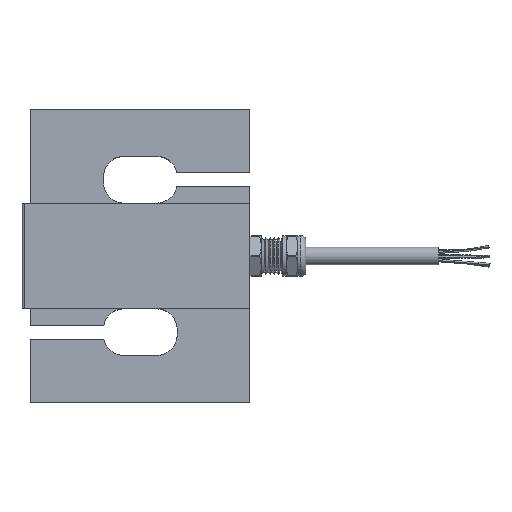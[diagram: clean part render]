
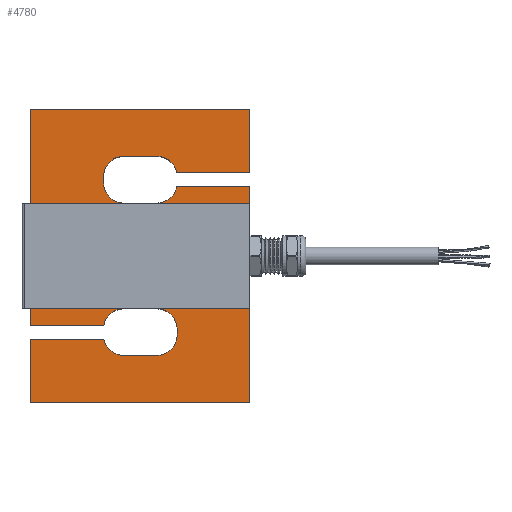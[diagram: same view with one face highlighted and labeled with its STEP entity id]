
A CAD part, top view. The second image highlights one B-rep face of the part: STEP entity #4780.
In plain terms, the highlighted planar face has unit normal (0, 0, 1).
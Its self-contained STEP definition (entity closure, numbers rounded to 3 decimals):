
#472=PLANE('',#5364);
#739=FACE_OUTER_BOUND('',#1150,.T.);
#1150=EDGE_LOOP('',(#4106,#4107,#4108,#4109,#4110,#4111,#4112,#4113,#4114,
#4115,#4116,#4117,#4118,#4119,#4120,#4121,#4122,#4123,#4124,#4125,#4126,
#4127,#4128,#4129));
#1427=LINE('',#8050,#1642);
#1430=LINE('',#8060,#1645);
#1480=LINE('',#9698,#1695);
#1481=LINE('',#9702,#1696);
#1482=LINE('',#9706,#1697);
#1483=LINE('',#9710,#1698);
#1484=LINE('',#9714,#1699);
#1485=LINE('',#9716,#1700);
#1486=LINE('',#9717,#1701);
#1487=LINE('',#9719,#1702);
#1488=LINE('',#9723,#1703);
#1489=LINE('',#9727,#1704);
#1490=LINE('',#9731,#1705);
#1491=LINE('',#9735,#1706);
#1492=LINE('',#9737,#1707);
#1493=LINE('',#9738,#1708);
#1642=VECTOR('',#6210,1000.);
#1645=VECTOR('',#6219,1000.);
#1695=VECTOR('',#6471,1000.);
#1696=VECTOR('',#6474,1000.);
#1697=VECTOR('',#6477,1000.);
#1698=VECTOR('',#6480,1000.);
#1699=VECTOR('',#6483,1000.);
#1700=VECTOR('',#6484,1000.);
#1701=VECTOR('',#6485,1000.);
#1702=VECTOR('',#6486,1000.);
#1703=VECTOR('',#6489,1000.);
#1704=VECTOR('',#6492,1000.);
#1705=VECTOR('',#6495,1000.);
#1706=VECTOR('',#6498,1000.);
#1707=VECTOR('',#6499,1000.);
#1708=VECTOR('',#6500,1000.);
#2006=CIRCLE('',#5365,7.);
#2007=CIRCLE('',#5366,7.);
#2008=CIRCLE('',#5367,7.);
#2009=CIRCLE('',#5368,7.);
#2010=CIRCLE('',#5369,7.);
#2011=CIRCLE('',#5370,7.);
#2012=CIRCLE('',#5371,7.);
#2013=CIRCLE('',#5372,7.);
#2234=VERTEX_POINT('',#8047);
#2235=VERTEX_POINT('',#8049);
#2238=VERTEX_POINT('',#8057);
#2239=VERTEX_POINT('',#8059);
#2484=VERTEX_POINT('',#9697);
#2485=VERTEX_POINT('',#9699);
#2486=VERTEX_POINT('',#9701);
#2487=VERTEX_POINT('',#9703);
#2488=VERTEX_POINT('',#9705);
#2489=VERTEX_POINT('',#9707);
#2490=VERTEX_POINT('',#9709);
#2491=VERTEX_POINT('',#9711);
#2492=VERTEX_POINT('',#9713);
#2493=VERTEX_POINT('',#9715);
#2494=VERTEX_POINT('',#9718);
#2495=VERTEX_POINT('',#9720);
#2496=VERTEX_POINT('',#9722);
#2497=VERTEX_POINT('',#9724);
#2498=VERTEX_POINT('',#9726);
#2499=VERTEX_POINT('',#9728);
#2500=VERTEX_POINT('',#9730);
#2501=VERTEX_POINT('',#9732);
#2502=VERTEX_POINT('',#9734);
#2503=VERTEX_POINT('',#9736);
#2883=EDGE_CURVE('',#2235,#2234,#1427,.T.);
#2888=EDGE_CURVE('',#2238,#2239,#1430,.T.);
#3134=EDGE_CURVE('',#2238,#2484,#1480,.T.);
#3135=EDGE_CURVE('',#2484,#2485,#2006,.T.);
#3136=EDGE_CURVE('',#2485,#2486,#1481,.T.);
#3137=EDGE_CURVE('',#2486,#2487,#2007,.T.);
#3138=EDGE_CURVE('',#2487,#2488,#1482,.T.);
#3139=EDGE_CURVE('',#2488,#2489,#2008,.T.);
#3140=EDGE_CURVE('',#2489,#2490,#1483,.T.);
#3141=EDGE_CURVE('',#2490,#2491,#2009,.T.);
#3142=EDGE_CURVE('',#2491,#2492,#1484,.T.);
#3143=EDGE_CURVE('',#2493,#2492,#1485,.T.);
#3144=EDGE_CURVE('',#2235,#2493,#1486,.T.);
#3145=EDGE_CURVE('',#2234,#2494,#1487,.T.);
#3146=EDGE_CURVE('',#2494,#2495,#2010,.T.);
#3147=EDGE_CURVE('',#2495,#2496,#1488,.T.);
#3148=EDGE_CURVE('',#2496,#2497,#2011,.T.);
#3149=EDGE_CURVE('',#2497,#2498,#1489,.T.);
#3150=EDGE_CURVE('',#2498,#2499,#2012,.T.);
#3151=EDGE_CURVE('',#2499,#2500,#1490,.T.);
#3152=EDGE_CURVE('',#2500,#2501,#2013,.T.);
#3153=EDGE_CURVE('',#2501,#2502,#1491,.T.);
#3154=EDGE_CURVE('',#2502,#2503,#1492,.T.);
#3155=EDGE_CURVE('',#2503,#2239,#1493,.T.);
#4106=ORIENTED_EDGE('',*,*,#2888,.F.);
#4107=ORIENTED_EDGE('',*,*,#3134,.T.);
#4108=ORIENTED_EDGE('',*,*,#3135,.T.);
#4109=ORIENTED_EDGE('',*,*,#3136,.T.);
#4110=ORIENTED_EDGE('',*,*,#3137,.T.);
#4111=ORIENTED_EDGE('',*,*,#3138,.T.);
#4112=ORIENTED_EDGE('',*,*,#3139,.T.);
#4113=ORIENTED_EDGE('',*,*,#3140,.T.);
#4114=ORIENTED_EDGE('',*,*,#3141,.T.);
#4115=ORIENTED_EDGE('',*,*,#3142,.T.);
#4116=ORIENTED_EDGE('',*,*,#3143,.F.);
#4117=ORIENTED_EDGE('',*,*,#3144,.F.);
#4118=ORIENTED_EDGE('',*,*,#2883,.T.);
#4119=ORIENTED_EDGE('',*,*,#3145,.T.);
#4120=ORIENTED_EDGE('',*,*,#3146,.T.);
#4121=ORIENTED_EDGE('',*,*,#3147,.T.);
#4122=ORIENTED_EDGE('',*,*,#3148,.T.);
#4123=ORIENTED_EDGE('',*,*,#3149,.T.);
#4124=ORIENTED_EDGE('',*,*,#3150,.T.);
#4125=ORIENTED_EDGE('',*,*,#3151,.T.);
#4126=ORIENTED_EDGE('',*,*,#3152,.T.);
#4127=ORIENTED_EDGE('',*,*,#3153,.T.);
#4128=ORIENTED_EDGE('',*,*,#3154,.T.);
#4129=ORIENTED_EDGE('',*,*,#3155,.T.);
#4780=ADVANCED_FACE('',(#739),#472,.T.);
#5364=AXIS2_PLACEMENT_3D('',#9696,#6469,#6470);
#5365=AXIS2_PLACEMENT_3D('',#9700,#6472,#6473);
#5366=AXIS2_PLACEMENT_3D('',#9704,#6475,#6476);
#5367=AXIS2_PLACEMENT_3D('',#9708,#6478,#6479);
#5368=AXIS2_PLACEMENT_3D('',#9712,#6481,#6482);
#5369=AXIS2_PLACEMENT_3D('',#9721,#6487,#6488);
#5370=AXIS2_PLACEMENT_3D('',#9725,#6490,#6491);
#5371=AXIS2_PLACEMENT_3D('',#9729,#6493,#6494);
#5372=AXIS2_PLACEMENT_3D('',#9733,#6496,#6497);
#6210=DIRECTION('',(0.,-1.,0.));
#6219=DIRECTION('',(0.,-1.,0.));
#6469=DIRECTION('center_axis',(0.,0.,1.));
#6470=DIRECTION('ref_axis',(1.,0.,0.));
#6471=DIRECTION('',(-1.,0.,0.));
#6472=DIRECTION('center_axis',(0.,0.,-1.));
#6473=DIRECTION('ref_axis',(-1.,0.,0.));
#6474=DIRECTION('',(-1.,0.,0.));
#6475=DIRECTION('center_axis',(0.,0.,-1.));
#6476=DIRECTION('ref_axis',(1.,0.,0.));
#6477=DIRECTION('',(0.,1.,0.));
#6478=DIRECTION('center_axis',(0.,0.,-1.));
#6479=DIRECTION('ref_axis',(-1.,0.,0.));
#6480=DIRECTION('',(1.,0.,0.));
#6481=DIRECTION('center_axis',(0.,0.,-1.));
#6482=DIRECTION('ref_axis',(-1.,0.,0.));
#6483=DIRECTION('',(1.,0.,0.));
#6484=DIRECTION('',(0.,-1.,0.));
#6485=DIRECTION('',(1.,0.,0.));
#6486=DIRECTION('',(1.,0.,0.));
#6487=DIRECTION('center_axis',(0.,0.,-1.));
#6488=DIRECTION('ref_axis',(-1.,0.,0.));
#6489=DIRECTION('',(1.,0.,0.));
#6490=DIRECTION('center_axis',(0.,0.,-1.));
#6491=DIRECTION('ref_axis',(1.,0.,0.));
#6492=DIRECTION('',(0.,-1.,0.));
#6493=DIRECTION('center_axis',(0.,0.,-1.));
#6494=DIRECTION('ref_axis',(1.,0.,0.));
#6495=DIRECTION('',(-1.,0.,0.));
#6496=DIRECTION('center_axis',(0.,0.,-1.));
#6497=DIRECTION('ref_axis',(1.,0.,0.));
#6498=DIRECTION('',(-1.,0.,0.));
#6499=DIRECTION('',(0.,-1.,0.));
#6500=DIRECTION('',(1.,0.,0.));
#8047=CARTESIAN_POINT('',(-52.5,19.669,55.1));
#8049=CARTESIAN_POINT('',(-52.5,93.269,55.1));
#8050=CARTESIAN_POINT('',(-52.5,93.269,55.1));
#8057=CARTESIAN_POINT('',(22.5,66.869,55.1));
#8059=CARTESIAN_POINT('',(22.5,-6.731,55.1));
#8060=CARTESIAN_POINT('',(22.5,93.269,55.1));
#9696=CARTESIAN_POINT('Origin',(-15.,43.269,55.1));
#9697=CARTESIAN_POINT('',(-2.5,66.869,55.1));
#9698=CARTESIAN_POINT('',(22.5,66.869,55.1));
#9699=CARTESIAN_POINT('',(-9.359,61.269,55.1));
#9700=CARTESIAN_POINT('Origin',(-9.359,68.269,55.1));
#9701=CARTESIAN_POINT('',(-20.5,61.269,55.1));
#9702=CARTESIAN_POINT('',(-20.5,61.269,55.1));
#9703=CARTESIAN_POINT('',(-27.5,68.269,55.1));
#9704=CARTESIAN_POINT('Origin',(-20.5,68.269,55.1));
#9705=CARTESIAN_POINT('',(-27.5,70.269,55.1));
#9706=CARTESIAN_POINT('',(-27.5,68.269,55.1));
#9707=CARTESIAN_POINT('',(-20.5,77.269,55.1));
#9708=CARTESIAN_POINT('Origin',(-20.5,70.269,55.1));
#9709=CARTESIAN_POINT('',(-9.359,77.269,55.1));
#9710=CARTESIAN_POINT('',(-20.5,77.269,55.1));
#9711=CARTESIAN_POINT('',(-2.5,71.669,55.1));
#9712=CARTESIAN_POINT('Origin',(-9.359,70.269,55.1));
#9713=CARTESIAN_POINT('',(22.5,71.669,55.1));
#9714=CARTESIAN_POINT('',(22.5,71.669,55.1));
#9715=CARTESIAN_POINT('',(22.5,93.269,55.1));
#9716=CARTESIAN_POINT('',(22.5,93.269,55.1));
#9717=CARTESIAN_POINT('',(22.5,93.269,55.1));
#9718=CARTESIAN_POINT('',(-27.359,19.669,55.1));
#9719=CARTESIAN_POINT('',(-27.359,19.669,55.1));
#9720=CARTESIAN_POINT('',(-20.5,25.269,55.1));
#9721=CARTESIAN_POINT('Origin',(-20.5,18.269,55.1));
#9722=CARTESIAN_POINT('',(-9.359,25.269,55.1));
#9723=CARTESIAN_POINT('',(-20.5,25.269,55.1));
#9724=CARTESIAN_POINT('',(-2.359,18.269,55.1));
#9725=CARTESIAN_POINT('Origin',(-9.359,18.269,55.1));
#9726=CARTESIAN_POINT('',(-2.359,16.269,55.1));
#9727=CARTESIAN_POINT('',(-2.359,18.269,55.1));
#9728=CARTESIAN_POINT('',(-9.359,9.269,55.1));
#9729=CARTESIAN_POINT('Origin',(-9.359,16.269,55.1));
#9730=CARTESIAN_POINT('',(-20.5,9.269,55.1));
#9731=CARTESIAN_POINT('',(-20.5,9.269,55.1));
#9732=CARTESIAN_POINT('',(-27.359,14.869,55.1));
#9733=CARTESIAN_POINT('Origin',(-20.5,16.269,55.1));
#9734=CARTESIAN_POINT('',(-52.5,14.869,55.1));
#9735=CARTESIAN_POINT('',(-27.359,14.869,55.1));
#9736=CARTESIAN_POINT('',(-52.5,-6.731,55.1));
#9737=CARTESIAN_POINT('',(-52.5,93.269,55.1));
#9738=CARTESIAN_POINT('',(22.5,-6.731,55.1));
